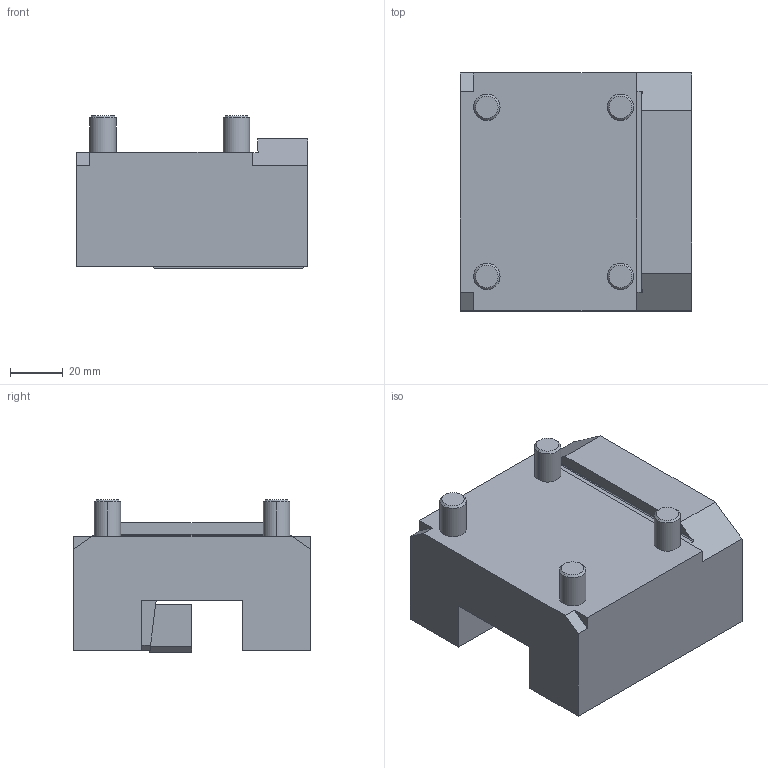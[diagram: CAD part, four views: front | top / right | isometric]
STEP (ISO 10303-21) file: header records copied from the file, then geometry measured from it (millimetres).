
FILE_DESCRIPTION (( 'STEP AP214' ), '1' );
FILE_NAME ('EWS-10325.STEP', '2018-02-13T18:43:00', ( '' ), ( '' ), 'SwSTEP 2.0', 'SolidWorks 2017', '' );
FILE_SCHEMA (( 'AUTOMOTIVE_DESIGN' ));
Length unit declared in the file: inch
Products named in the file (1): EWS-10325
Bounding box: 87.63 x 90 x 57.6 mm (x, y, z)
Volume: 302427.6 mm3; surface area: 44159.7 mm2
Topology: 1 solids, 1 shells, 195 faces, 435 edges, 249 vertices
Faces by surface type: plane 103, cone 64, cylinder 28
Entity records: 5499 total; most frequent: CARTESIAN_POINT 1170, DIRECTION 927, ORIENTED_EDGE 854, EDGE_CURVE 427, AXIS2_PLACEMENT_3D 334, VECTOR 259, LINE 259, VERTEX_POINT 249
